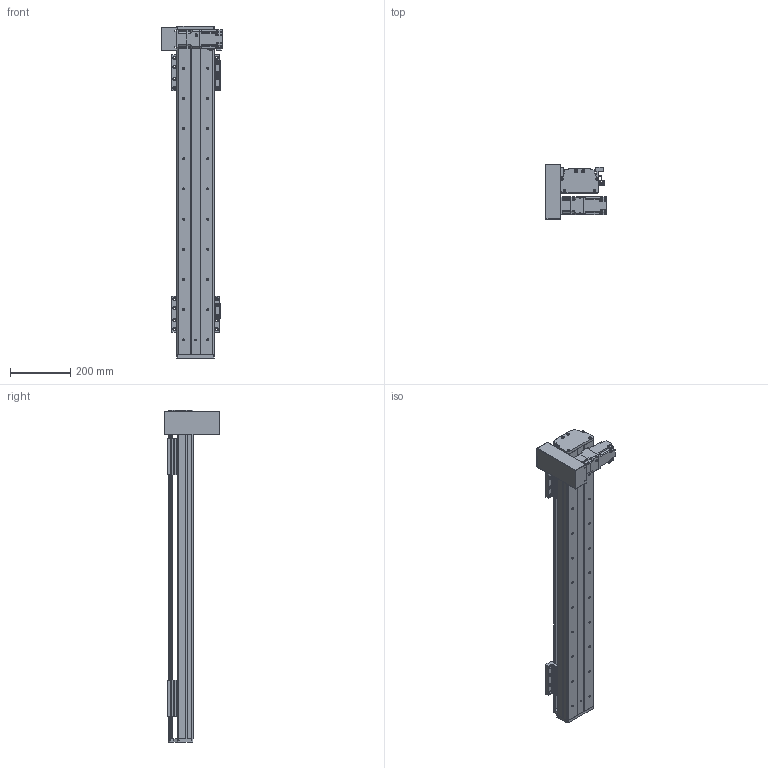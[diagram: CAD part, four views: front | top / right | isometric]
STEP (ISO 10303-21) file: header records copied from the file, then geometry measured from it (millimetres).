
FILE_DESCRIPTION(/* description */ (''),/* implementation_level */ '2;1');
FILE_NAME(/* name */ 'C:\Users\PC\Desktop\3D도면\STEP\DSB125-DL2G-W0800-R.stp',/* time_stamp */ '2018-06-21T14:49:36+09:00',/* author */ ('PC'),/* organization */ (''),/* preprocessor_version */ 'ST-DEVELOPER v16.5',/* originating_system */ 'Autodesk Inventor 2017',/* authorisation */ '');
FILE_SCHEMA (('AUTOMOTIVE_DESIGN { 1 0 10303 214 3 1 1 }'));
Length unit declared in the file: millimetre
Products named in the file (12): DSB125-L-300ST; DSR125-BASE(S-TYPE); DSR125-REAR COVER-R01(170203); DSR125-REAR COVER-R01(170203)_1; DSR125-UP COVER-R01(170203); hg-kr23_; ab0601-p0401200402; 13-BELT COVER; DSR126-SENSOR DOG; pm-y65_step; SENSOR BRACKET(EE-SX674A); DSR125-TABLE(MSA15X)
Assembly tree (16 placements, depth 2):
  DSB125-L-300ST
    DSR125-BASE(S-TYPE)
    DSR125-REAR COVER-R01(170203)
    DSR125-REAR COVER-R01(170203)_1
    DSR125-UP COVER-R01(170203)
    hg-kr23_
    ab0601-p0401200402
    13-BELT COVER
    DSR126-SENSOR DOG
    pm-y65_step  x3
    SENSOR BRACKET(EE-SX674A)  x3
    DSR125-TABLE(MSA15X)  x2
Bounding box: 202.1 x 182 x 1100 mm (x, y, z)
Volume: 4258173.1 mm3; surface area: 1228524.8 mm2
Topology: 17 solids, 22 shells, 1665 faces, 4511 edges, 2976 vertices
Faces by surface type: plane 908, cylinder 633, cone 112, sphere 8, torus 4
Full cylindrical faces by diameter (mm): 2.459 x20, 3.242 x16, 3.5 x6, 4 x1, 4.134 x16, 4.2 x4, 4.3 x1, 4.5 x50, 4.917 x20, 5 x27, 5.3 x1, 5.5 x4, 5.6 x8, 5.8 x4, 5.9 x8, 6 x4, 6.6 x22, 6.647 x22, 7.5 x32, 8.5 x8, 8.7 x1, 11 x22, 14 x1, 16 x2, 17 x1, 20 x1, 47 x1, 50 x3
Entity records: 35430 total; most frequent: CARTESIAN_POINT 6511, DIRECTION 6140, ORIENTED_EDGE 5486, EDGE_CURVE 2748, AXIS2_PLACEMENT_3D 2258, VERTEX_POINT 1957, EDGE_LOOP 1681, LINE 1624
